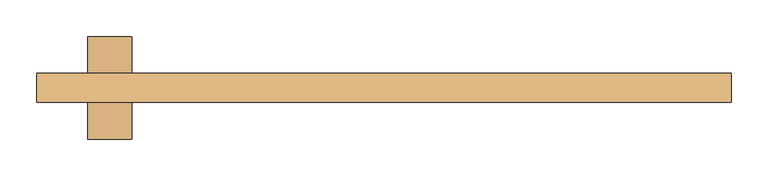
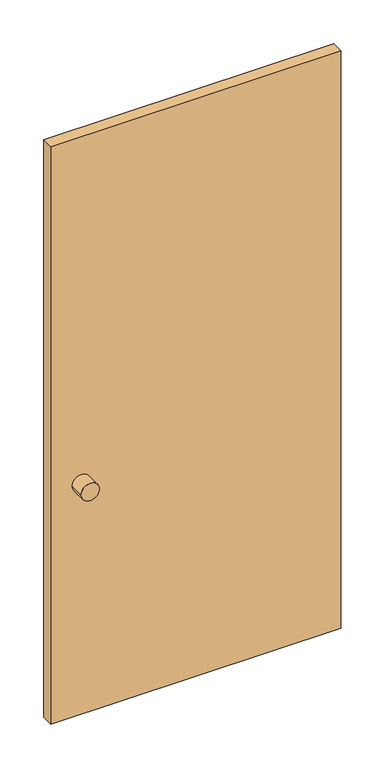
"""IFC4 building model written with IfcOpenShell, lengths in millimetres: door geometry, 営_片開き扉 : SD4c 950*2000."""

from ifc_helpers import new_model, si_unit, point, frame, frame_2d, origin, origin_with_axes, place, context, project, spatial, polyline, circle_curve, trimmed, segment, composite_curve, outline, extrude, source, transform, mapped, element, save


def door_19447788(model_context):
    return source(origin(), model_context, "Body", "SweptSolid", [
        extrude(outline(composite_curve([segment(trimmed(circle_curve(frame_2d((800.0, -375.0)), 30.0), [point((800.0, -345.0))], [point((800.0, -405.0))], False, "CARTESIAN"), True, "CONTINUOUS"), segment(trimmed(circle_curve(frame_2d((800.0, -375.0)), 30.0), [point((800.0, -405.0))], [point((800.0, -345.0))], False, "CARTESIAN"), True, "CONTINUOUS")], self_intersect=False)), frame((0.0, -40.0, 0.0), z_axis=(0.0, 1.0, 0.0), x_axis=(0.0, 0.0, 1.0)), (0.0, 0.0, 1.0), 50.0),
        extrude(outline(composite_curve([segment(trimmed(circle_curve(frame_2d((800.0, -375.0)), 30.0), [point((800.0, -345.0))], [point((800.0, -405.0))], False, "CARTESIAN"), True, "CONTINUOUS"), segment(trimmed(circle_curve(frame_2d((800.0, -375.0)), 30.0), [point((800.0, -405.0))], [point((800.0, -345.0))], False, "CARTESIAN"), True, "CONTINUOUS")], self_intersect=False)), frame((0.0, -130.0, 0.0), z_axis=(0.0, 1.0, 0.0), x_axis=(0.0, 0.0, 1.0)), (0.0, 0.0, 1.0), 50.0),
        extrude(outline(polyline([(-475.0, -40.0), (475.0, -40.0), (475.0, -80.0), (-475.0, -80.0), (-475.0, -40.0)])), origin_with_axes(), (0.0, 0.0, 1.0), 2000.0),
    ])


if __name__ == "__main__":
    model = new_model("IFC4")
    model_context = context("Model", 3, world=origin())
    ifc_project = project(units=[si_unit("LENGTHUNIT", "METRE", prefix="MILLI")], contexts=[model_context])
    site = spatial("IfcSite", under=ifc_project)
    building = spatial("IfcBuilding", under=site)
    placement = place(None, origin())
    door_shape = door_19447788(model_context)
    element("IfcDoor", 1, ObjectType="営_片開き扉 : SD4c 950*2000", at=placement, inside=building, context=model_context, shape_type="MappedRepresentation", body=[
        mapped(door_shape, transform((0.0, 0.0, 0.0), x_axis=(1.0, 0.0, 0.0), y_axis=(0.0, 1.0, 0.0), z_axis=(0.0, 0.0, 1.0))),
    ])
    save(model, "model.ifc")
